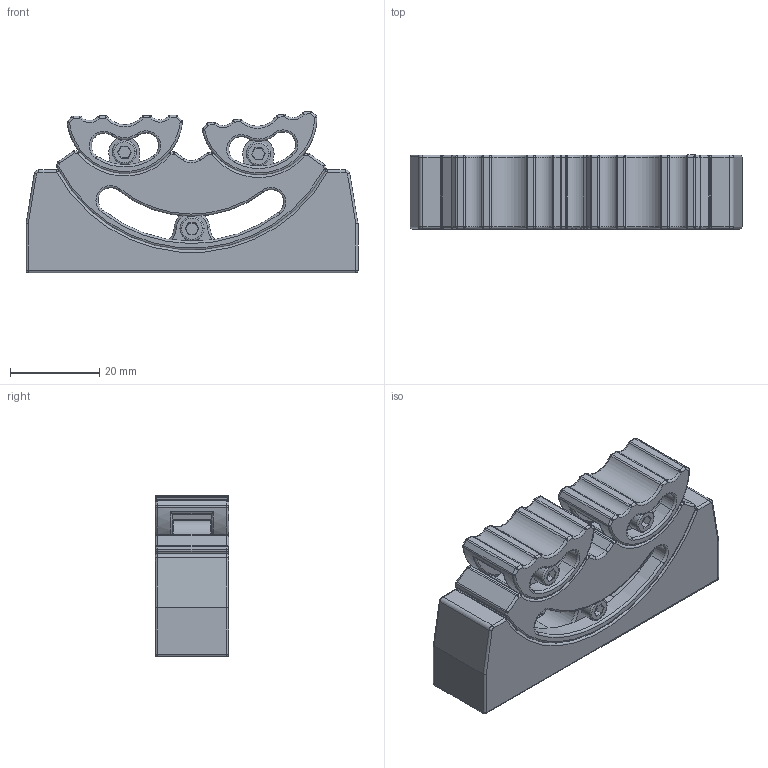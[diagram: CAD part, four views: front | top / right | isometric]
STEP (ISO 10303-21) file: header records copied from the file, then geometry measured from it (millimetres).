
FILE_DESCRIPTION((''),'2;1');
FILE_NAME('MOVEFRACTALJAWS_ASM','2025-03-19T14:32:40',('程川'),(''),'CREO PARAMETRIC BY PTC INC, 2021023','CREO PARAMETRIC BY PTC INC, 2021023','');
FILE_SCHEMA(('CONFIG_CONTROL_DESIGN','SHAPE_APPEARANCE_LAYERS_GROUPS'));
Length unit declared in the file: millimetre
Products named in the file (5): RUBY_FRJ_1; RUBY_FRJ_2; RUBY_FRJ_3; ISO14579-M3X5-9_8; MOVEFRACTALJAWS_ASM
Assembly tree (10 placements, depth 2):
  MOVEFRACTALJAWS_ASM
    RUBY_FRJ_1
    RUBY_FRJ_2
    RUBY_FRJ_3  x2
    ISO14579-M3X5-9_8  x6
Bounding box: 74.3 x 16.5 x 36.09 mm (x, y, z)
Volume: 24818.1 mm3; surface area: 16374.8 mm2
Topology: 10 solids, 19 shells, 547 faces, 1176 edges, 678 vertices
Faces by surface type: cylinder 246, plane 131, sphere 76, torus 70, cone 18, bspline 6
Entity records: 10346 total; most frequent: CARTESIAN_POINT 2352, DIRECTION 1750, ORIENTED_EDGE 1400, AXIS2_PLACEMENT_3D 736, EDGE_CURVE 708, VERTEX_POINT 402, CIRCLE 394, EDGE_LOOP 358
